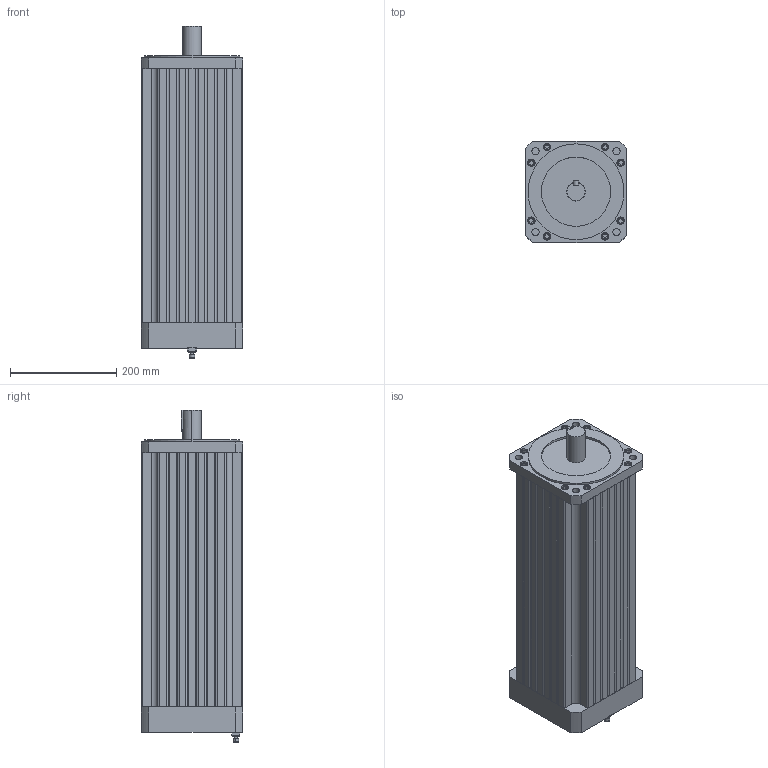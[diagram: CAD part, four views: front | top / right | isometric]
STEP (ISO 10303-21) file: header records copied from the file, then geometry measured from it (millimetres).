
FILE_DESCRIPTION (( 'STEP AP203' ), '1' );
FILE_NAME ('BTS190-75D3AC-EXD.STEP', '2023-05-24T05:33:32', ( 'Admin' ), ( '' ), 'SwSTEP 2.0', 'SolidWorks 2021', '' );
FILE_SCHEMA (( 'CONFIG_CONTROL_DESIGN' ));
Length unit declared in the file: millimetre
Products named in the file (1): BTS190-75D3AC-EXD
Bounding box: 190 x 190 x 624 mm (x, y, z)
Volume: 17876453.7 mm3; surface area: 665026.3 mm2
Topology: 15 solids, 16 shells, 516 faces, 1248 edges, 804 vertices
Faces by surface type: plane 287, cylinder 174, torus 34, cone 21
Entity records: 15048 total; most frequent: DIRECTION 2679, CARTESIAN_POINT 2595, ORIENTED_EDGE 2460, EDGE_CURVE 1230, AXIS2_PLACEMENT_3D 936, LINE 807, VECTOR 807, VERTEX_POINT 804
